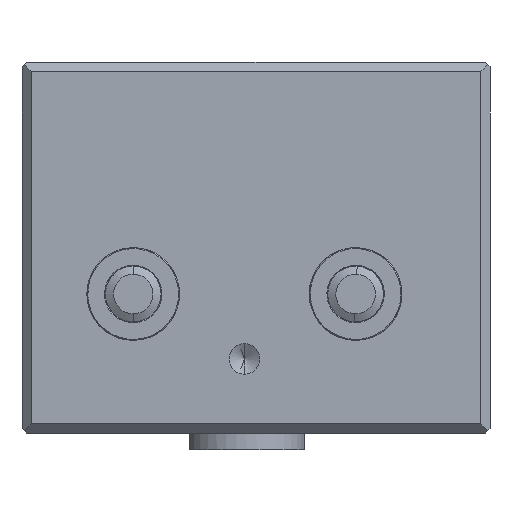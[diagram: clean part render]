
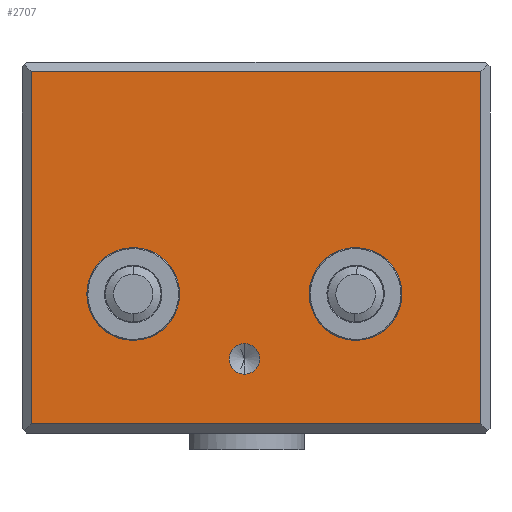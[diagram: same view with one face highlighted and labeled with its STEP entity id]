
A CAD part, front view. The second image highlights one B-rep face of the part: STEP entity #2707.
In plain terms, the highlighted planar face has unit normal (0, -1, 0).
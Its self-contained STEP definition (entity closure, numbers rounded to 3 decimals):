
#5 = ORIENTED_EDGE ( 'NONE', *, *, #18547, .F. ) ;
#38 = AXIS2_PLACEMENT_3D ( 'NONE', #23477, #17854, #15703 ) ;
#648 = CARTESIAN_POINT ( 'NONE',  ( 24.25, -22.5, 40. ) ) ;
#1060 = EDGE_CURVE ( 'NONE', #18716, #4360, #19972, .T. ) ;
#1573 = LINE ( 'NONE', #14236, #9559 ) ;
#1616 = VECTOR ( 'NONE', #22349, 1000. ) ;
#1945 = EDGE_CURVE ( 'NONE', #20868, #9266, #7926, .T. ) ;
#2048 = FACE_BOUND ( 'NONE', #2553, .T. ) ;
#2095 = CARTESIAN_POINT ( 'NONE',  ( 24.25, -22.5, 39. ) ) ;
#2553 = EDGE_LOOP ( 'NONE', ( #14289, #9825 ) ) ;
#2665 = CARTESIAN_POINT ( 'NONE',  ( 10.75, -22.5, 20. ) ) ;
#2707 = ADVANCED_FACE ( 'NONE', ( #10964, #12799, #7293, #2048 ), #7645, .F. ) ;
#2711 = CARTESIAN_POINT ( 'NONE',  ( -24.25, -22.5, 1. ) ) ;
#3066 = CARTESIAN_POINT ( 'NONE',  ( -13.25, -22.5, 10. ) ) ;
#3109 = CARTESIAN_POINT ( 'NONE',  ( -1.25, -22.5, 8. ) ) ;
#3638 = VERTEX_POINT ( 'NONE', #4197 ) ;
#3867 = ORIENTED_EDGE ( 'NONE', *, *, #5719, .T. ) ;
#3872 = EDGE_CURVE ( 'NONE', #24134, #13957, #4822, .T. ) ;
#4127 = DIRECTION ( 'NONE',  ( 1., 0., 0. ) ) ;
#4197 = CARTESIAN_POINT ( 'NONE',  ( 24.25, -22.5, 1. ) ) ;
#4278 = ORIENTED_EDGE ( 'NONE', *, *, #1060, .F. ) ;
#4337 = CARTESIAN_POINT ( 'NONE',  ( -24.25, -22.5, 39. ) ) ;
#4360 = VERTEX_POINT ( 'NONE', #2665 ) ;
#4637 = AXIS2_PLACEMENT_3D ( 'NONE', #3109, #9056, #16874 ) ;
#4822 = CIRCLE ( 'NONE', #4637, 1.65 ) ;
#5051 = CARTESIAN_POINT ( 'NONE',  ( -25.25, -22.5, 40. ) ) ;
#5327 = DIRECTION ( 'NONE',  ( 0., -1., 0. ) ) ;
#5506 = DIRECTION ( 'NONE',  ( 0., 0., -1. ) ) ;
#5614 = CARTESIAN_POINT ( 'NONE',  ( 10.75, -22.5, 15. ) ) ;
#5719 = EDGE_CURVE ( 'NONE', #17827, #12694, #7199, .T. ) ;
#6057 = EDGE_CURVE ( 'NONE', #4360, #18716, #8997, .T. ) ;
#7199 = LINE ( 'NONE', #10508, #13327 ) ;
#7293 = FACE_OUTER_BOUND ( 'NONE', #13754, .T. ) ;
#7645 = PLANE ( 'NONE',  #9069 ) ;
#7764 = LINE ( 'NONE', #648, #1616 ) ;
#7926 = CIRCLE ( 'NONE', #38, 5. ) ;
#8136 = VECTOR ( 'NONE', #9630, 1000. ) ;
#8271 = EDGE_CURVE ( 'NONE', #24438, #3638, #1573, .T. ) ;
#8517 = CIRCLE ( 'NONE', #23484, 1.65 ) ;
#8997 = CIRCLE ( 'NONE', #10105, 5. ) ;
#9056 = DIRECTION ( 'NONE',  ( 0., -1., 0. ) ) ;
#9069 = AXIS2_PLACEMENT_3D ( 'NONE', #5051, #9431, #9608 ) ;
#9266 = VERTEX_POINT ( 'NONE', #18236 ) ;
#9431 = DIRECTION ( 'NONE',  ( 0., 1., 0. ) ) ;
#9559 = VECTOR ( 'NONE', #4127, 1000. ) ;
#9608 = DIRECTION ( 'NONE',  ( 0., 0., 1. ) ) ;
#9630 = DIRECTION ( 'NONE',  ( 0., 0., -1. ) ) ;
#9825 = ORIENTED_EDGE ( 'NONE', *, *, #16469, .F. ) ;
#9993 = CARTESIAN_POINT ( 'NONE',  ( 10.75, -22.5, 15. ) ) ;
#10105 = AXIS2_PLACEMENT_3D ( 'NONE', #5614, #19367, #23581 ) ;
#10499 = ORIENTED_EDGE ( 'NONE', *, *, #6057, .F. ) ;
#10508 = CARTESIAN_POINT ( 'NONE',  ( -25.25, -22.5, 39. ) ) ;
#10703 = EDGE_LOOP ( 'NONE', ( #4278, #10499 ) ) ;
#10964 = FACE_BOUND ( 'NONE', #11080, .T. ) ;
#11080 = EDGE_LOOP ( 'NONE', ( #18625, #5 ) ) ;
#11498 = CARTESIAN_POINT ( 'NONE',  ( 10.75, -22.5, 10. ) ) ;
#11859 = CARTESIAN_POINT ( 'NONE',  ( -1.25, -22.5, 8. ) ) ;
#12694 = VERTEX_POINT ( 'NONE', #4337 ) ;
#12799 = FACE_BOUND ( 'NONE', #10703, .T. ) ;
#12800 = EDGE_CURVE ( 'NONE', #3638, #17827, #7764, .T. ) ;
#13133 = CARTESIAN_POINT ( 'NONE',  ( -1.25, -22.5, 6.35 ) ) ;
#13327 = VECTOR ( 'NONE', #16351, 1000. ) ;
#13754 = EDGE_LOOP ( 'NONE', ( #13849, #23380, #3867, #23126 ) ) ;
#13839 = DIRECTION ( 'NONE',  ( 0., 0., -1. ) ) ;
#13849 = ORIENTED_EDGE ( 'NONE', *, *, #8271, .T. ) ;
#13945 = CARTESIAN_POINT ( 'NONE',  ( -1.25, -22.5, 9.65 ) ) ;
#13957 = VERTEX_POINT ( 'NONE', #13945 ) ;
#14236 = CARTESIAN_POINT ( 'NONE',  ( -25.25, -22.5, 1. ) ) ;
#14289 = ORIENTED_EDGE ( 'NONE', *, *, #3872, .F. ) ;
#15322 = AXIS2_PLACEMENT_3D ( 'NONE', #21132, #5327, #5506 ) ;
#15703 = DIRECTION ( 'NONE',  ( 0., 0., -1. ) ) ;
#15805 = DIRECTION ( 'NONE',  ( 0., -1., 0. ) ) ;
#16351 = DIRECTION ( 'NONE',  ( -1., 0., 0. ) ) ;
#16469 = EDGE_CURVE ( 'NONE', #13957, #24134, #8517, .T. ) ;
#16874 = DIRECTION ( 'NONE',  ( 0., 0., -1. ) ) ;
#17523 = CARTESIAN_POINT ( 'NONE',  ( -24.25, -22.5, 40. ) ) ;
#17827 = VERTEX_POINT ( 'NONE', #2095 ) ;
#17854 = DIRECTION ( 'NONE',  ( 0., -1., 0. ) ) ;
#18236 = CARTESIAN_POINT ( 'NONE',  ( -13.25, -22.5, 20. ) ) ;
#18547 = EDGE_CURVE ( 'NONE', #9266, #20868, #21994, .T. ) ;
#18625 = ORIENTED_EDGE ( 'NONE', *, *, #1945, .F. ) ;
#18716 = VERTEX_POINT ( 'NONE', #11498 ) ;
#19367 = DIRECTION ( 'NONE',  ( 0., -1., 0. ) ) ;
#19972 = CIRCLE ( 'NONE', #21727, 5. ) ;
#20868 = VERTEX_POINT ( 'NONE', #3066 ) ;
#20908 = EDGE_CURVE ( 'NONE', #12694, #24438, #24172, .T. ) ;
#21132 = CARTESIAN_POINT ( 'NONE',  ( -13.25, -22.5, 15. ) ) ;
#21727 = AXIS2_PLACEMENT_3D ( 'NONE', #9993, #23674, #13839 ) ;
#21994 = CIRCLE ( 'NONE', #15322, 5. ) ;
#22349 = DIRECTION ( 'NONE',  ( 0., 0., 1. ) ) ;
#23126 = ORIENTED_EDGE ( 'NONE', *, *, #20908, .T. ) ;
#23319 = DIRECTION ( 'NONE',  ( 0., 0., -1. ) ) ;
#23380 = ORIENTED_EDGE ( 'NONE', *, *, #12800, .T. ) ;
#23477 = CARTESIAN_POINT ( 'NONE',  ( -13.25, -22.5, 15. ) ) ;
#23484 = AXIS2_PLACEMENT_3D ( 'NONE', #11859, #15805, #23319 ) ;
#23581 = DIRECTION ( 'NONE',  ( 0., 0., -1. ) ) ;
#23674 = DIRECTION ( 'NONE',  ( 0., -1., 0. ) ) ;
#24134 = VERTEX_POINT ( 'NONE', #13133 ) ;
#24172 = LINE ( 'NONE', #17523, #8136 ) ;
#24438 = VERTEX_POINT ( 'NONE', #2711 ) ;
